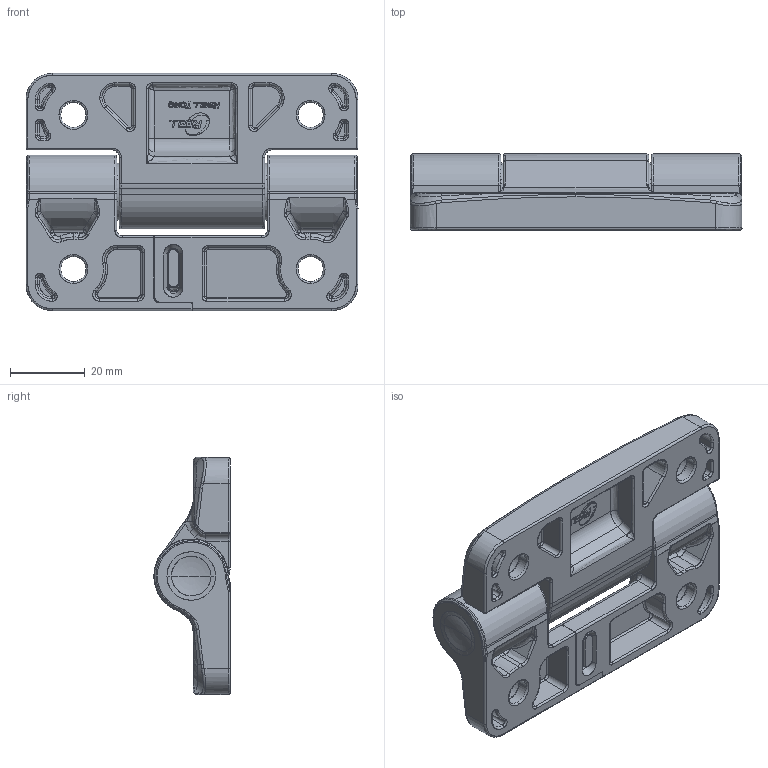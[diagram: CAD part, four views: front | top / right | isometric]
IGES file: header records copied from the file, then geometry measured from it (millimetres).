
Start section: SolidWorks IGES file using analytic representation for surfaces
Global section: file name: G:\RELEASED\82800\82846-XXX PH-35\Reell_PH-35-XXX-X-XXD.IGS; native system: SolidWorks 2015; preprocessor: SolidWorks 2015; author: hmanderson; date: 150909.142058; units: millimetre
Bounding box: 88.9 x 20.41 x 63.5 mm (x, y, z)
Surface area: 24151.8 mm2 (no closed solid volume)
Topology: 0 solids, 0 shells, 1003 faces, 8097 edges, 8059 vertices
Faces by surface type: bspline 677, revolution 326
